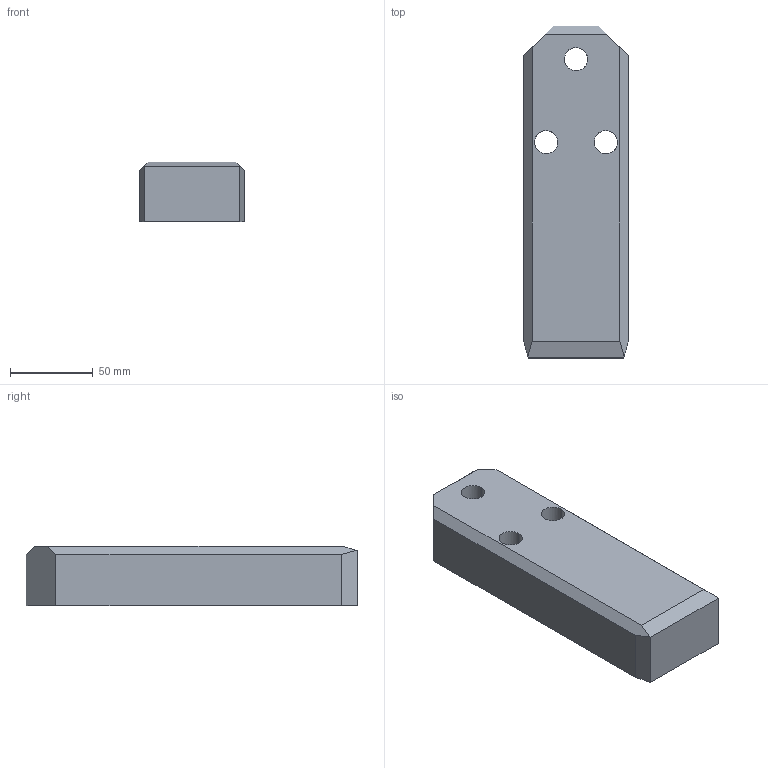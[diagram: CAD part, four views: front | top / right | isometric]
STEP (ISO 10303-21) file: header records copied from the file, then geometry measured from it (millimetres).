
FILE_DESCRIPTION(('CATIA V5 STEP Exchange'),'2;1');
FILE_NAME('C:\Users\borellobunino\Desktop\3D X SITO CF\A927\GSB_OILLESS_G2290506320036\STEP-2.03\A927-63X200X36.stp','2019-07-14T19:38:22+00:00',('none'),('none'),'CATIA Version 5 Release 20 GA (IN-10)','CATIA V5 STEP AP203','none');
FILE_SCHEMA(('CONFIG_CONTROL_DESIGN'));
Length unit declared in the file: millimetre
Products named in the file (1): A927-63X200X36
Bounding box: 63 x 200 x 36 mm (x, y, z)
Volume: 410658.6 mm3; surface area: 45705.6 mm2
Topology: 1 solids, 1 shells, 35 faces, 84 edges, 54 vertices
Faces by surface type: plane 17, cylinder 12, cone 6
Entity records: 1296 total; most frequent: CARTESIAN_POINT 450, ORIENTED_EDGE 168, DIRECTION 142, EDGE_CURVE 84, AXIS2_PLACEMENT_3D 54, VECTOR 54, LINE 54, VERTEX_POINT 54
